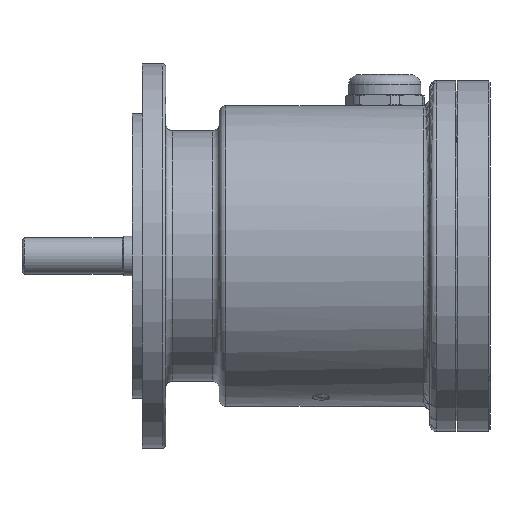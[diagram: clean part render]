
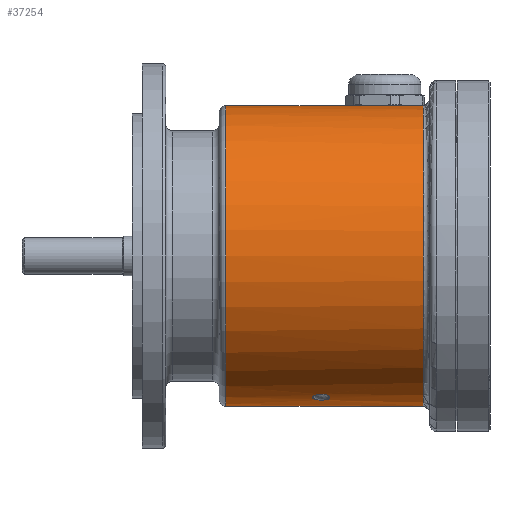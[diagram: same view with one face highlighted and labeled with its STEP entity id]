
A CAD part, front view. The second image highlights one B-rep face of the part: STEP entity #37254.
In plain terms, the highlighted cylindrical face has radius 45 mm (diameter 90 mm), a full revolution.
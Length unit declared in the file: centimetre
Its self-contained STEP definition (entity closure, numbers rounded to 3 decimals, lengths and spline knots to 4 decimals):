
#235=ELLIPSE('',#40135,4.5015,4.5);
#1114=CIRCLE('',#40080,4.5);
#1151=CIRCLE('',#40133,4.5);
#2007=CYLINDRICAL_SURFACE('',#40134,4.5);
#2547=FACE_BOUND('',#7188,.T.);
#2548=FACE_BOUND('',#7189,.T.);
#3076=B_SPLINE_CURVE_WITH_KNOTS('',3,(#62912,#62913,#62914,#62915,#62916,
#62917,#62918,#62919,#62920,#62921),.UNSPECIFIED.,.F.,.F.,(4,2,2,2,4),(2.041,
2.2959,2.5507,2.8207,3.0907),
 .UNSPECIFIED.);
#3077=B_SPLINE_CURVE_WITH_KNOTS('',3,(#62924,#62925,#62926,#62927,#62928,
#62929,#62930,#62931,#62932,#62933),.UNSPECIFIED.,.F.,.F.,(4,2,2,2,4),(3.0327,
3.3027,3.5727,3.8275,4.0824),
 .UNSPECIFIED.);
#3078=B_SPLINE_CURVE_WITH_KNOTS('',3,(#62935,#62936,#62937,#62938,#62939,
#62940,#62941,#62942,#62943,#62944,#62945,#62946,#62947,#62948,#62949,#62950,
#62951,#62952,#62953,#62954,#62955,#62956,#62957,#62958,#62959,#62960,#62961,
#62962,#62963,#62964,#62965,#62966,#62967,#62968),.UNSPECIFIED.,.T.,.F.,
(4,2,2,2,2,2,2,2,2,2,2,2,2,2,2,2,4),(0.,0.098,0.1959,
0.2939,0.3918,0.4898,0.5878,
0.6857,0.7837,0.8817,0.9796,
1.0776,1.1755,1.2735,1.3715,1.4694,
1.5674),.UNSPECIFIED.);
#4749=FACE_OUTER_BOUND('',#7187,.T.);
#7187=EDGE_LOOP('',(#30490,#30491,#30492,#30493,#30494,#30495));
#7188=EDGE_LOOP('',(#30496));
#7189=EDGE_LOOP('',(#30497));
#10296=LINE('',#62104,#13636);
#10419=LINE('',#62910,#13759);
#13636=VECTOR('',#46878,2.6);
#13759=VECTOR('',#47777,2.6);
#16938=VERTEX_POINT('',#62101);
#16939=VERTEX_POINT('',#62103);
#17168=VERTEX_POINT('',#62806);
#17196=VERTEX_POINT('',#62878);
#17206=VERTEX_POINT('',#62909);
#17207=VERTEX_POINT('',#62911);
#17208=VERTEX_POINT('',#62922);
#17209=VERTEX_POINT('',#62934);
#21554=EDGE_CURVE('',#16939,#16938,#10296,.T.);
#21868=EDGE_CURVE('',#17168,#17168,#1114,.T.);
#21906=EDGE_CURVE('',#16939,#17196,#1151,.T.);
#21907=EDGE_CURVE('',#17206,#17196,#10419,.T.);
#21908=EDGE_CURVE('',#16938,#17207,#3076,.T.);
#21909=EDGE_CURVE('',#17207,#17208,#235,.T.);
#21910=EDGE_CURVE('',#17208,#17206,#3077,.T.);
#21911=EDGE_CURVE('',#17209,#17209,#3078,.T.);
#30490=ORIENTED_EDGE('',*,*,#21907,.T.);
#30491=ORIENTED_EDGE('',*,*,#21906,.F.);
#30492=ORIENTED_EDGE('',*,*,#21554,.T.);
#30493=ORIENTED_EDGE('',*,*,#21908,.T.);
#30494=ORIENTED_EDGE('',*,*,#21909,.T.);
#30495=ORIENTED_EDGE('',*,*,#21910,.T.);
#30496=ORIENTED_EDGE('',*,*,#21911,.T.);
#30497=ORIENTED_EDGE('',*,*,#21868,.T.);
#37254=ADVANCED_FACE('',(#4749,#2547,#2548),#2007,.T.);
#40080=AXIS2_PLACEMENT_3D('',#62807,#47667,#47668);
#40133=AXIS2_PLACEMENT_3D('',#62907,#47773,#47774);
#40134=AXIS2_PLACEMENT_3D('',#62908,#47775,#47776);
#40135=AXIS2_PLACEMENT_3D('',#62923,#47778,#47779);
#46878=DIRECTION('',(-1.,0.,0.));
#47667=DIRECTION('center_axis',(1.,0.,0.));
#47668=DIRECTION('ref_axis',(0.,-1.,0.));
#47773=DIRECTION('center_axis',(1.,0.,0.));
#47774=DIRECTION('ref_axis',(0.,-1.,0.));
#47775=DIRECTION('center_axis',(1.,0.,0.));
#47776=DIRECTION('ref_axis',(0.,-1.,0.));
#47777=DIRECTION('',(1.,0.,0.));
#47778=DIRECTION('center_axis',(-1.,0.026,0.));
#47779=DIRECTION('ref_axis',(-0.026,-1.,0.));
#62101=CARTESIAN_POINT('',(8.7933,2.5631,2.6461));
#62103=CARTESIAN_POINT('',(11.3933,2.5631,2.6461));
#62104=CARTESIAN_POINT('',(11.3933,2.5631,2.6461));
#62806=CARTESIAN_POINT('',(5.4933,-5.5767,0.));
#62807=CARTESIAN_POINT('Origin',(5.4933,-1.0767,0.));
#62878=CARTESIAN_POINT('',(11.3933,2.5631,-2.6461));
#62907=CARTESIAN_POINT('Origin',(11.3933,-1.0767,0.));
#62908=CARTESIAN_POINT('Origin',(8.4433,-1.0767,0.));
#62909=CARTESIAN_POINT('',(8.7933,2.5631,-2.6461));
#62910=CARTESIAN_POINT('',(8.7933,2.5631,-2.6461));
#62911=CARTESIAN_POINT('',(8.1574,2.9544,2.));
#62912=CARTESIAN_POINT('Ctrl Pts',(8.7933,2.5631,2.6461));
#62913=CARTESIAN_POINT('Ctrl Pts',(8.7083,2.5631,2.6461));
#62914=CARTESIAN_POINT('Ctrl Pts',(8.6201,2.5764,2.628));
#62915=CARTESIAN_POINT('Ctrl Pts',(8.4623,2.6246,2.5597));
#62916=CARTESIAN_POINT('Ctrl Pts',(8.3926,2.6591,2.5095));
#62917=CARTESIAN_POINT('Ctrl Pts',(8.2819,2.733,2.396));
#62918=CARTESIAN_POINT('Ctrl Pts',(8.2341,2.778,2.3236));
#62919=CARTESIAN_POINT('Ctrl Pts',(8.1713,2.8688,2.1659));
#62920=CARTESIAN_POINT('Ctrl Pts',(8.1564,2.9144,2.0806));
#62921=CARTESIAN_POINT('Ctrl Pts',(8.1574,2.9544,2.));
#62922=CARTESIAN_POINT('',(8.1574,2.9544,-2.));
#62923=CARTESIAN_POINT('Origin',(8.0519,-1.0767,0.));
#62924=CARTESIAN_POINT('Ctrl Pts',(8.1574,2.9544,-2.));
#62925=CARTESIAN_POINT('Ctrl Pts',(8.1564,2.9144,-2.0806));
#62926=CARTESIAN_POINT('Ctrl Pts',(8.1713,2.8688,-2.1659));
#62927=CARTESIAN_POINT('Ctrl Pts',(8.2341,2.778,-2.3236));
#62928=CARTESIAN_POINT('Ctrl Pts',(8.2819,2.733,-2.396));
#62929=CARTESIAN_POINT('Ctrl Pts',(8.3926,2.6591,-2.5095));
#62930=CARTESIAN_POINT('Ctrl Pts',(8.4623,2.6246,-2.5597));
#62931=CARTESIAN_POINT('Ctrl Pts',(8.6201,2.5764,-2.628));
#62932=CARTESIAN_POINT('Ctrl Pts',(8.7083,2.5631,-2.6461));
#62933=CARTESIAN_POINT('Ctrl Pts',(8.7933,2.5631,-2.6461));
#62934=CARTESIAN_POINT('',(8.3433,-2.8576,-4.1326));
#62935=CARTESIAN_POINT('Ctrl Pts',(8.3433,-2.8576,-4.1326));
#62936=CARTESIAN_POINT('Ctrl Pts',(8.3759,-2.8576,-4.1326));
#62937=CARTESIAN_POINT('Ctrl Pts',(8.4108,-2.8516,-4.1352));
#62938=CARTESIAN_POINT('Ctrl Pts',(8.4748,-2.8271,-4.1456));
#62939=CARTESIAN_POINT('Ctrl Pts',(8.504,-2.8086,-4.1534));
#62940=CARTESIAN_POINT('Ctrl Pts',(8.5502,-2.7659,-4.171));
#62941=CARTESIAN_POINT('Ctrl Pts',(8.5702,-2.7388,-4.1819));
#62942=CARTESIAN_POINT('Ctrl Pts',(8.5968,-2.6791,-4.2052));
#62943=CARTESIAN_POINT('Ctrl Pts',(8.6033,-2.6465,-4.2174));
#62944=CARTESIAN_POINT('Ctrl Pts',(8.6033,-2.5851,-4.2398));
#62945=CARTESIAN_POINT('Ctrl Pts',(8.5968,-2.5523,-4.2513));
#62946=CARTESIAN_POINT('Ctrl Pts',(8.5702,-2.4916,-4.2719));
#62947=CARTESIAN_POINT('Ctrl Pts',(8.5502,-2.4638,-4.281));
#62948=CARTESIAN_POINT('Ctrl Pts',(8.504,-2.4197,-4.295));
#62949=CARTESIAN_POINT('Ctrl Pts',(8.4748,-2.4006,-4.3009));
#62950=CARTESIAN_POINT('Ctrl Pts',(8.4108,-2.3752,-4.3086));
#62951=CARTESIAN_POINT('Ctrl Pts',(8.3759,-2.3689,-4.3105));
#62952=CARTESIAN_POINT('Ctrl Pts',(8.3106,-2.3689,-4.3105));
#62953=CARTESIAN_POINT('Ctrl Pts',(8.2758,-2.3752,-4.3086));
#62954=CARTESIAN_POINT('Ctrl Pts',(8.2117,-2.4006,-4.3009));
#62955=CARTESIAN_POINT('Ctrl Pts',(8.1825,-2.4197,-4.295));
#62956=CARTESIAN_POINT('Ctrl Pts',(8.1364,-2.4638,-4.281));
#62957=CARTESIAN_POINT('Ctrl Pts',(8.1163,-2.4916,-4.2719));
#62958=CARTESIAN_POINT('Ctrl Pts',(8.0898,-2.5523,-4.2513));
#62959=CARTESIAN_POINT('Ctrl Pts',(8.0833,-2.5851,-4.2398));
#62960=CARTESIAN_POINT('Ctrl Pts',(8.0833,-2.6465,-4.2174));
#62961=CARTESIAN_POINT('Ctrl Pts',(8.0898,-2.6791,-4.2052));
#62962=CARTESIAN_POINT('Ctrl Pts',(8.1163,-2.7388,-4.1819));
#62963=CARTESIAN_POINT('Ctrl Pts',(8.1364,-2.7659,-4.171));
#62964=CARTESIAN_POINT('Ctrl Pts',(8.1825,-2.8086,-4.1534));
#62965=CARTESIAN_POINT('Ctrl Pts',(8.2117,-2.8271,-4.1456));
#62966=CARTESIAN_POINT('Ctrl Pts',(8.2758,-2.8516,-4.1352));
#62967=CARTESIAN_POINT('Ctrl Pts',(8.3106,-2.8576,-4.1326));
#62968=CARTESIAN_POINT('Ctrl Pts',(8.3433,-2.8576,-4.1326));
